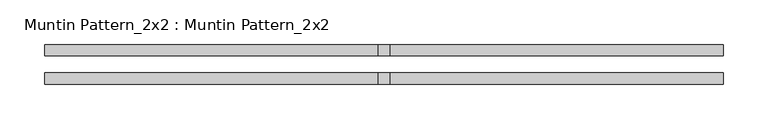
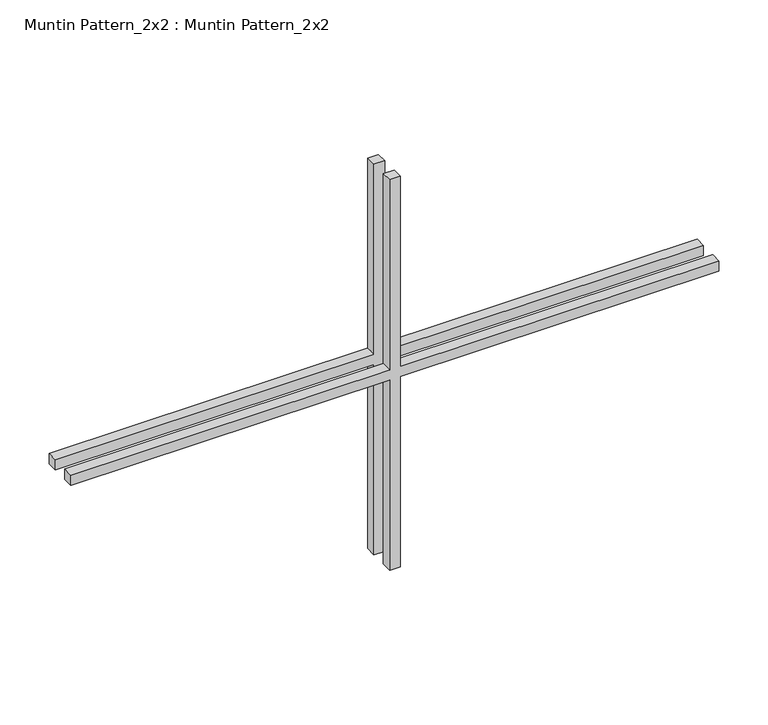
"""IFC4 building model written with IfcOpenShell, lengths in millimetres: proxy geometry, Muntin Pattern_2x2 : Muntin Pattern_2x2."""

from ifc_helpers import new_model, si_unit, frame, origin, place, context, project, spatial, polyline, outline, extrude, source, transform, mapped, element, save


def muntin_pattern_2x2_muntin_pattern_2x2_8091d02f(model_context):
    return source(origin(), model_context, "Body", "SweptSolid", [
        extrude(outline(polyline([(249.2375, -6.35), (249.2375, -381.0), (236.5375, -381.0), (236.5375, -6.35), (0.0, -6.35), (0.0, 6.35), (236.5375, 6.35), (236.5375, 381.0), (249.2375, 381.0), (249.2375, 6.35), (485.775, 6.35), (485.775, -6.35), (249.2375, -6.35)])), frame((0.0, -22.225, 0.0), z_axis=(0.0, 1.0, 0.0), x_axis=(0.0, 0.0, 1.0)), (0.0, 0.0, 1.0), 12.7),
        extrude(outline(polyline([(249.2375, -6.35), (249.2375, -381.0), (236.5375, -381.0), (236.5375, -6.35), (0.0, -6.35), (0.0, 6.35), (236.5375, 6.35), (236.5375, 381.0), (249.2375, 381.0), (249.2375, 6.35), (485.775, 6.35), (485.775, -6.35), (249.2375, -6.35)])), frame((0.0, 9.525, 0.0), z_axis=(0.0, 1.0, 0.0), x_axis=(0.0, 0.0, 1.0)), (0.0, 0.0, 1.0), 12.7),
    ])


if __name__ == "__main__":
    model = new_model("IFC4")
    model_context = context("Model", 3, world=origin())
    ifc_project = project(units=[si_unit("LENGTHUNIT", "METRE", prefix="MILLI")], contexts=[model_context])
    site = spatial("IfcSite", under=ifc_project)
    building = spatial("IfcBuilding", under=site)
    placement = place(None, origin())
    muntin_pattern_2x2_muntin_pattern_2x2_shape = muntin_pattern_2x2_muntin_pattern_2x2_8091d02f(model_context)
    element("IfcBuildingElementProxy", 1, Name="Muntin Pattern_2x2 : Muntin Pattern_2x2", ObjectType="Muntin Pattern_2x2 : Muntin Pattern_2x2", at=placement, inside=building, context=model_context, shape_type="MappedRepresentation", body=[
        mapped(muntin_pattern_2x2_muntin_pattern_2x2_shape, transform((0.0, 0.0, 0.0), x_axis=(1.0, 0.0, 0.0), y_axis=(0.0, 1.0, 0.0), z_axis=(0.0, 0.0, 1.0))),
    ])
    save(model, "model.ifc")
